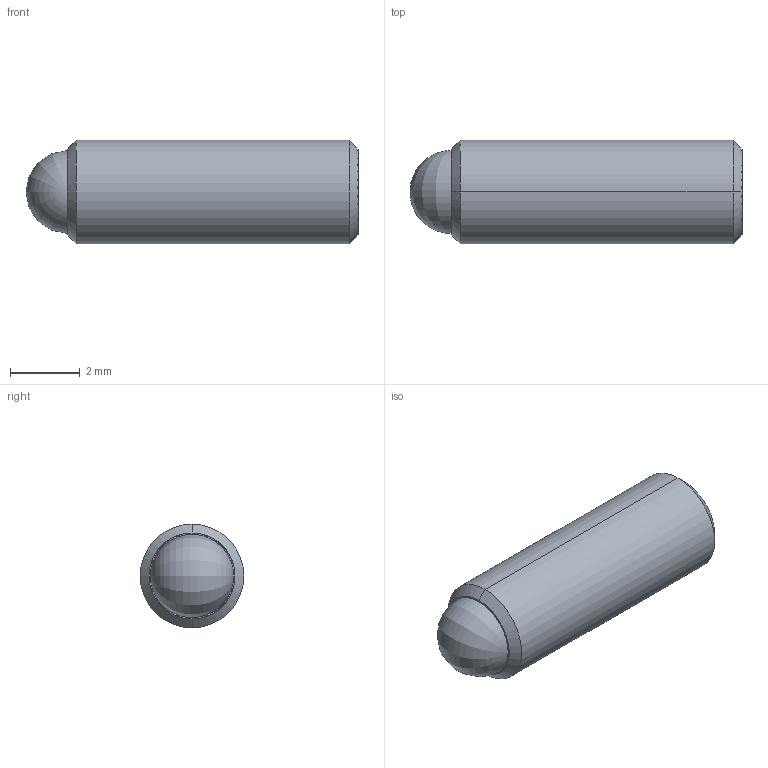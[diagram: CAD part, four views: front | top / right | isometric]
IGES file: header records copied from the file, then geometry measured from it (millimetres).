
Start section: SolidWorks IGES file using analytic representation for surfaces
Global section: file name: C:\Users\workpc\Desktop\KMA Solidworks\TS6-80 Series\TS6-80 SLDPRT\TS6-80-375.IGS; native system: SolidWorks 2013; preprocessor: SolidWorks 2013; author: workpc; date: 140728.153009; units: inch
Bounding box: 9.52 x 2.97 x 2.97 mm (x, y, z)
Surface area: 131.2 mm2 (no closed solid volume)
Topology: 0 solids, 0 shells, 20 faces, 204 edges, 200 vertices
Faces by surface type: revolution 10, bspline 10
